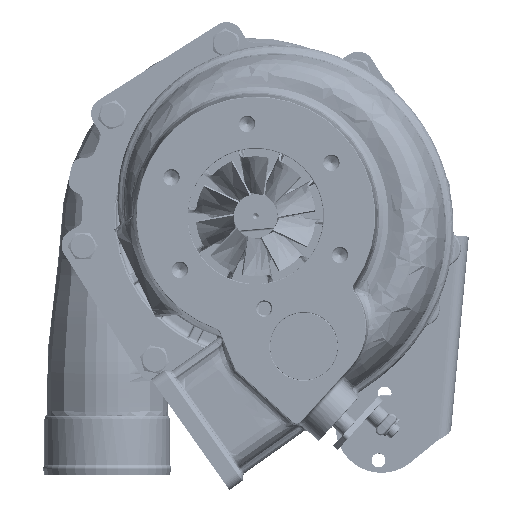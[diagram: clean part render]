
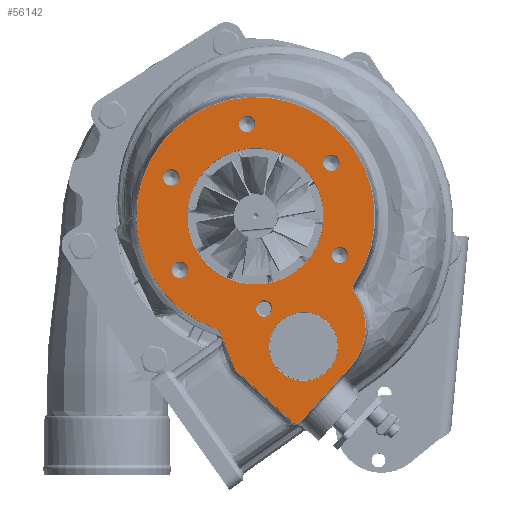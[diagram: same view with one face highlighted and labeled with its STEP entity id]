
A CAD part, front view. The second image highlights one B-rep face of the part: STEP entity #56142.
In plain terms, the highlighted planar face has unit normal (0, -1, 0).
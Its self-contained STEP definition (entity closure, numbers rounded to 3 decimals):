
#1931=LINE('',#95271,#4201);
#1932=LINE('',#95289,#4202);
#1933=LINE('',#95293,#4203);
#4201=VECTOR('',#72930,1000.);
#4202=VECTOR('',#72935,1000.);
#4203=VECTOR('',#72938,1000.);
#6391=PLANE('',#67068);
#8534=B_SPLINE_CURVE_WITH_KNOTS('',3,(#95276,#95277,#95278,#95279,#95280),
 .UNSPECIFIED.,.F.,.F.,(4,1,4),(0.,0.002,0.004),
 .UNSPECIFIED.);
#8535=B_SPLINE_CURVE_WITH_KNOTS('',3,(#95284,#95285,#95286,#95287),
 .UNSPECIFIED.,.F.,.F.,(4,4),(0.,0.003),.UNSPECIFIED.);
#12751=ORIENTED_EDGE('',*,*,#30057,.T.);
#12752=ORIENTED_EDGE('',*,*,#30058,.T.);
#12753=ORIENTED_EDGE('',*,*,#30059,.T.);
#12754=ORIENTED_EDGE('',*,*,#30060,.T.);
#12755=ORIENTED_EDGE('',*,*,#30061,.T.);
#12756=ORIENTED_EDGE('',*,*,#30062,.T.);
#12757=ORIENTED_EDGE('',*,*,#30063,.T.);
#12758=ORIENTED_EDGE('',*,*,#30064,.T.);
#12759=ORIENTED_EDGE('',*,*,#30065,.T.);
#12760=ORIENTED_EDGE('',*,*,#30066,.T.);
#12761=ORIENTED_EDGE('',*,*,#30067,.T.);
#12762=ORIENTED_EDGE('',*,*,#30068,.T.);
#12763=ORIENTED_EDGE('',*,*,#30069,.T.);
#12764=ORIENTED_EDGE('',*,*,#30070,.T.);
#12765=ORIENTED_EDGE('',*,*,#30071,.T.);
#12766=ORIENTED_EDGE('',*,*,#30072,.T.);
#12767=ORIENTED_EDGE('',*,*,#30073,.T.);
#30057=EDGE_CURVE('',#38732,#38732,#44567,.F.);
#30058=EDGE_CURVE('',#38733,#38734,#1931,.F.);
#30059=EDGE_CURVE('',#38734,#38735,#44568,.T.);
#30060=EDGE_CURVE('',#38735,#38736,#8534,.T.);
#30061=EDGE_CURVE('',#38736,#38737,#44569,.T.);
#30062=EDGE_CURVE('',#38737,#38738,#8535,.T.);
#30063=EDGE_CURVE('',#38738,#38739,#1932,.F.);
#30064=EDGE_CURVE('',#38739,#38740,#44570,.T.);
#30065=EDGE_CURVE('',#38740,#38741,#1933,.F.);
#30066=EDGE_CURVE('',#38741,#38733,#44571,.T.);
#30067=EDGE_CURVE('',#38742,#38742,#44572,.F.);
#30068=EDGE_CURVE('',#38743,#38743,#44573,.F.);
#30069=EDGE_CURVE('',#38744,#38744,#44574,.F.);
#30070=EDGE_CURVE('',#38745,#38745,#44575,.F.);
#30071=EDGE_CURVE('',#38746,#38746,#44576,.F.);
#30072=EDGE_CURVE('',#38747,#38747,#44577,.F.);
#30073=EDGE_CURVE('',#38748,#38748,#44578,.F.);
#38732=VERTEX_POINT('',#95270);
#38733=VERTEX_POINT('',#95272);
#38734=VERTEX_POINT('',#95273);
#38735=VERTEX_POINT('',#95275);
#38736=VERTEX_POINT('',#95281);
#38737=VERTEX_POINT('',#95283);
#38738=VERTEX_POINT('',#95288);
#38739=VERTEX_POINT('',#95290);
#38740=VERTEX_POINT('',#95292);
#38741=VERTEX_POINT('',#95294);
#38742=VERTEX_POINT('',#95297);
#38743=VERTEX_POINT('',#95299);
#38744=VERTEX_POINT('',#95301);
#38745=VERTEX_POINT('',#95303);
#38746=VERTEX_POINT('',#95305);
#38747=VERTEX_POINT('',#95307);
#38748=VERTEX_POINT('',#95309);
#44567=CIRCLE('',#67069,17.3);
#44568=CIRCLE('',#67070,29.7);
#44569=CIRCLE('',#67071,59.71);
#44570=CIRCLE('',#67072,2.7);
#44571=CIRCLE('',#67073,2.7);
#44572=CIRCLE('',#67074,34.3);
#44573=CIRCLE('',#67075,4.1);
#44574=CIRCLE('',#67076,4.1);
#44575=CIRCLE('',#67077,4.1);
#44576=CIRCLE('',#67078,4.1);
#44577=CIRCLE('',#67079,4.1);
#44578=CIRCLE('',#67080,4.1);
#47412=EDGE_LOOP('',(#12751));
#47413=EDGE_LOOP('',(#12752,#12753,#12754,#12755,#12756,#12757,#12758,#12759,
#12760));
#47414=EDGE_LOOP('',(#12761));
#47415=EDGE_LOOP('',(#12762));
#47416=EDGE_LOOP('',(#12763));
#47417=EDGE_LOOP('',(#12764));
#47418=EDGE_LOOP('',(#12765));
#47419=EDGE_LOOP('',(#12766));
#47420=EDGE_LOOP('',(#12767));
#51724=FACE_BOUND('',#47412,.T.);
#51725=FACE_BOUND('',#47413,.T.);
#51726=FACE_BOUND('',#47414,.T.);
#51727=FACE_BOUND('',#47415,.T.);
#51728=FACE_BOUND('',#47416,.T.);
#51729=FACE_BOUND('',#47417,.T.);
#51730=FACE_BOUND('',#47418,.T.);
#51731=FACE_BOUND('',#47419,.T.);
#51732=FACE_BOUND('',#47420,.T.);
#56142=ADVANCED_FACE('',(#51724,#51725,#51726,#51727,#51728,#51729,#51730,
#51731,#51732),#6391,.T.);
#67068=AXIS2_PLACEMENT_3D('',#95268,#72926,#72927);
#67069=AXIS2_PLACEMENT_3D('',#95269,#72928,#72929);
#67070=AXIS2_PLACEMENT_3D('',#95274,#72931,#72932);
#67071=AXIS2_PLACEMENT_3D('',#95282,#72933,#72934);
#67072=AXIS2_PLACEMENT_3D('',#95291,#72936,#72937);
#67073=AXIS2_PLACEMENT_3D('',#95295,#72939,#72940);
#67074=AXIS2_PLACEMENT_3D('',#95296,#72941,#72942);
#67075=AXIS2_PLACEMENT_3D('',#95298,#72943,#72944);
#67076=AXIS2_PLACEMENT_3D('',#95300,#72945,#72946);
#67077=AXIS2_PLACEMENT_3D('',#95302,#72947,#72948);
#67078=AXIS2_PLACEMENT_3D('',#95304,#72949,#72950);
#67079=AXIS2_PLACEMENT_3D('',#95306,#72951,#72952);
#67080=AXIS2_PLACEMENT_3D('',#95308,#72953,#72954);
#72926=DIRECTION('',(0.,-1.,0.));
#72927=DIRECTION('',(0.,0.,-1.));
#72928=DIRECTION('',(0.,-1.,0.));
#72929=DIRECTION('',(0.,0.,-1.));
#72930=DIRECTION('',(-0.214,0.,0.977));
#72931=DIRECTION('',(0.,-1.,0.));
#72932=DIRECTION('',(0.,0.,-1.));
#72933=DIRECTION('',(0.,-1.,0.));
#72934=DIRECTION('',(0.,0.,-1.));
#72935=DIRECTION('',(0.973,0.,-0.232));
#72936=DIRECTION('',(0.,-1.,0.));
#72937=DIRECTION('',(0.,0.,-1.));
#72938=DIRECTION('',(0.977,0.,0.214));
#72939=DIRECTION('',(0.,-1.,0.));
#72940=DIRECTION('',(0.,0.,-1.));
#72941=DIRECTION('',(0.,-1.,0.));
#72942=DIRECTION('',(0.,0.,-1.));
#72943=DIRECTION('',(0.,-1.,0.));
#72944=DIRECTION('',(0.,0.,-1.));
#72945=DIRECTION('',(0.,-1.,0.));
#72946=DIRECTION('',(0.,0.,-1.));
#72947=DIRECTION('',(0.,-1.,0.));
#72948=DIRECTION('',(0.,0.,-1.));
#72949=DIRECTION('',(0.,-1.,0.));
#72950=DIRECTION('',(0.,0.,-1.));
#72951=DIRECTION('',(0.,-1.,0.));
#72952=DIRECTION('',(0.,0.,-1.));
#72953=DIRECTION('',(0.,-1.,0.));
#72954=DIRECTION('',(0.,0.,-1.));
#95268=CARTESIAN_POINT('',(0.,0.,0.));
#95269=CARTESIAN_POINT('',(-67.212,0.,17.993));
#95270=CARTESIAN_POINT('',(-67.212,0.,0.693));
#95271=CARTESIAN_POINT('',(-89.136,0.,4.993));
#95272=CARTESIAN_POINT('',(-97.064,0.,41.134));
#95273=CARTESIAN_POINT('',(-89.136,0.,4.993));
#95274=CARTESIAN_POINT('',(-60.125,0.,11.358));
#95275=CARTESIAN_POINT('',(-59.278,0.,-18.33));
#95276=CARTESIAN_POINT('',(-59.278,0.,-18.33));
#95277=CARTESIAN_POINT('',(-58.585,0.,-18.31));
#95278=CARTESIAN_POINT('',(-57.204,0.,-18.72));
#95279=CARTESIAN_POINT('',(-56.32,0.,-19.845));
#95280=CARTESIAN_POINT('',(-56.082,0.,-20.497));
#95281=CARTESIAN_POINT('',(-56.082,0.,-20.497));
#95282=CARTESIAN_POINT('',(0.,0.,0.));
#95283=CARTESIAN_POINT('',(-34.745,0.,48.56));
#95284=CARTESIAN_POINT('',(-34.745,0.,48.56));
#95285=CARTESIAN_POINT('',(-35.517,0.,48.008));
#95286=CARTESIAN_POINT('',(-36.511,0.,47.813));
#95287=CARTESIAN_POINT('',(-37.435,0.,48.034));
#95288=CARTESIAN_POINT('',(-37.435,0.,48.034));
#95289=CARTESIAN_POINT('',(-56.377,0.,52.549));
#95290=CARTESIAN_POINT('',(-56.377,0.,52.549));
#95291=CARTESIAN_POINT('',(-57.003,0.,49.923));
#95292=CARTESIAN_POINT('',(-57.582,0.,52.56));
#95293=CARTESIAN_POINT('',(-95.005,0.,44.35));
#95294=CARTESIAN_POINT('',(-95.005,0.,44.35));
#95295=CARTESIAN_POINT('',(-94.427,0.,41.713));
#95296=CARTESIAN_POINT('',(0.,0.,0.));
#95297=CARTESIAN_POINT('',(0.,0.,-34.3));
#95298=CARTESIAN_POINT('',(40.27,0.,-23.25));
#95299=CARTESIAN_POINT('',(40.27,0.,-27.35));
#95300=CARTESIAN_POINT('',(40.27,0.,23.25));
#95301=CARTESIAN_POINT('',(40.27,0.,19.15));
#95302=CARTESIAN_POINT('',(0.,0.,46.5));
#95303=CARTESIAN_POINT('',(0.,0.,42.4));
#95304=CARTESIAN_POINT('',(-40.27,0.,23.25));
#95305=CARTESIAN_POINT('',(-40.27,0.,19.15));
#95306=CARTESIAN_POINT('',(-40.27,0.,-23.25));
#95307=CARTESIAN_POINT('',(-40.27,0.,-27.35));
#95308=CARTESIAN_POINT('',(0.,0.,-46.5));
#95309=CARTESIAN_POINT('',(0.,0.,-50.6));
